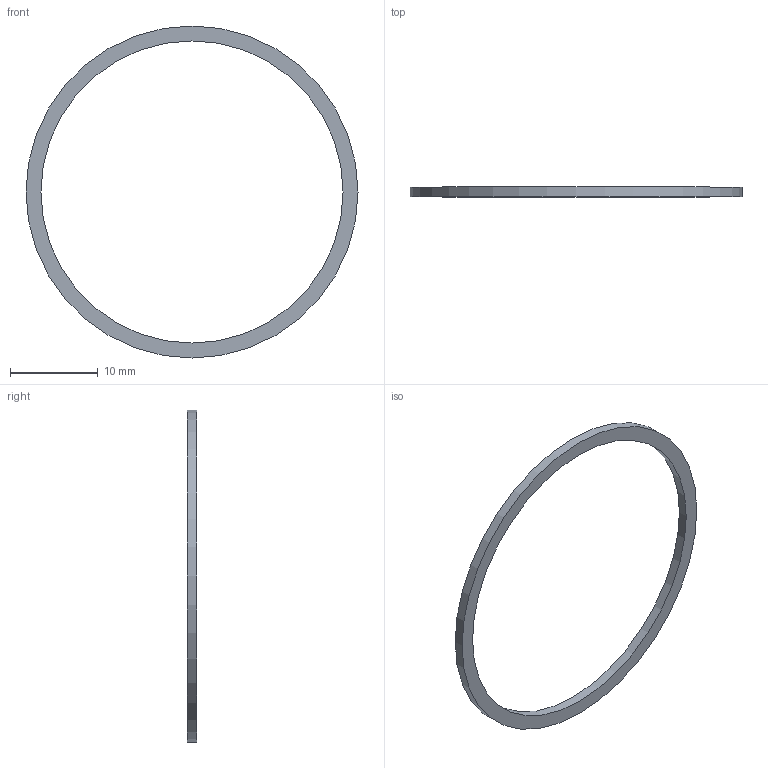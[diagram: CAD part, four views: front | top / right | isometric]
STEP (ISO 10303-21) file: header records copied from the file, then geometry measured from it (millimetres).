
FILE_DESCRIPTION(('Open CASCADE Model'),'2;1');
FILE_NAME('Open CASCADE Shape Model','2026-10-01T12:35:22',('Author'),( 'Open CASCADE'),'Open CASCADE STEP processor 7.8','Open CASCADE 7.8' ,'Unknown');
FILE_SCHEMA(('AUTOMOTIVE_DESIGN { 1 0 10303 214 1 1 1 1 }'));
Length unit declared in the file: millimetre
Products named in the file (2): H05_LCD_perimeter_gasket; H05_LCD_perimeter_gasket_solid
Assembly tree (1 placements, depth 2):
  H05_LCD_perimeter_gasket
    H05_LCD_perimeter_gasket_solid
Bounding box: 37.8 x 1.1 x 37.8 mm (x, y, z)
Volume: 212.1 mm3; surface area: 635.1 mm2
Topology: 1 solids, 1 shells, 4 faces, 6 edges, 4 vertices
Faces by surface type: cylinder 2, plane 2
Full cylindrical faces by diameter (mm): 34.4 x1, 37.8 x1
Entity records: 213 total; most frequent: DIRECTION 34, CARTESIAN_POINT 28, ORIENTED_EDGE 12, PCURVE 12, DEFINITIONAL_REPRESENTATION 12, AXIS2_PLACEMENT_3D 10, LINE 10, VECTOR 10
